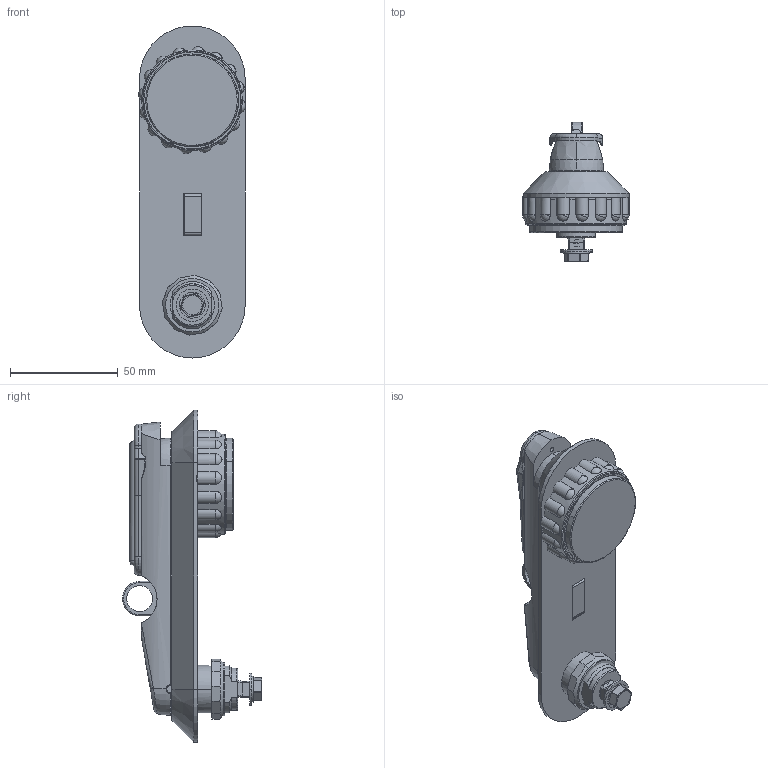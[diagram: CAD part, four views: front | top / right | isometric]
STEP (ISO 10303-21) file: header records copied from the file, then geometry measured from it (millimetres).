
FILE_DESCRIPTION (( 'STEP AP214' ), '1' );
FILE_NAME ('RS420-U.STEP', '2010-02-25T17:23:50', ( '£ukaszC' ), ( '' ), 'SwSTEP 2.0', 'SolidWorks 2008', '' );
FILE_SCHEMA (( 'AUTOMOTIVE_DESIGN' ));
Length unit declared in the file: millimetre
Products named in the file (15): Zapinka RESS_Domyœlna; 1B. RS100.02.02.00_Domyœlna; 1B.RS420-U.01.01.00; 6,5 x 1; 1B RS 400.01.02.00_Domyœlna; M6 x 10_Domyœlna; O-RING 45 x 2_Domyœlna; 1B.RS 100.01.06.00_Domyœlna; 1B.RS400-U.02.01.00; 1B.RS100-U.02.04.01; O-RING 12x2_Domyœlna; 1B.RS400.01.03.00; 1B.RS100.01.04.00_Domyœlna; 1B.RS400.02.03.01; RS420-U
Assembly tree (14 placements, depth 2):
  RS420-U
    1B.RS100-U.02.04.01
    M6 x 10_Domyœlna
    6,5 x 1
    O-RING 45 x 2_Domyœlna
    1B.RS 100.01.06.00_Domyœlna
    1B. RS100.02.02.00_Domyœlna
    1B.RS400-U.02.01.00
    1B RS 400.01.02.00_Domyœlna
    1B.RS420-U.01.01.00
    O-RING 12x2_Domyœlna
    Zapinka RESS_Domyœlna
    1B.RS400.01.03.00
    1B.RS100.01.04.00_Domyœlna
    1B.RS400.02.03.01
Bounding box: 49.58 x 64.6 x 154 mm (x, y, z)
Volume: 136585.6 mm3; surface area: 76567.5 mm2
Topology: 15 solids, 15 shells, 618 faces, 1604 edges, 1020 vertices
Faces by surface type: plane 233, cylinder 218, torus 86, sphere 38, cone 25, bspline 18
Entity records: 24139 total; most frequent: CARTESIAN_POINT 8450, ORIENTED_EDGE 3176, DIRECTION 3173, EDGE_CURVE 1588, AXIS2_PLACEMENT_3D 1227, VERTEX_POINT 1016, VECTOR 719, LINE 719
